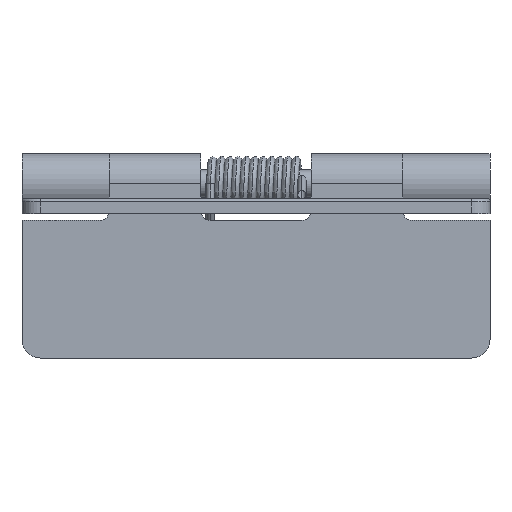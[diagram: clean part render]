
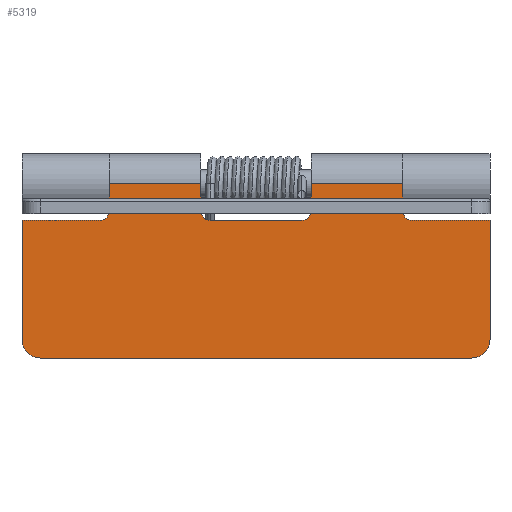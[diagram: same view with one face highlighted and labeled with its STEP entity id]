
A CAD part, left-side view. The second image highlights one B-rep face of the part: STEP entity #5319.
In plain terms, the highlighted planar face has unit normal (-1, 0, 0) as drawn and (0, 0, -1) by its records, which use the part's own axes.
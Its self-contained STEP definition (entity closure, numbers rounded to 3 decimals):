
#1 = VERTEX_POINT ( 'NONE', #512 ) ;
#15 = VERTEX_POINT ( 'NONE', #611 ) ;
#22 = EDGE_CURVE ( 'NONE', #60, #15, #702, .T. ) ;
#38 = ORIENTED_EDGE ( 'NONE', *, *, #4586, .T. ) ;
#41 = ORIENTED_EDGE ( 'NONE', *, *, #22, .T. ) ;
#60 = VERTEX_POINT ( 'NONE', #2570 ) ;
#70 = EDGE_CURVE ( 'NONE', #60, #108, #2723, .T. ) ;
#74 = ORIENTED_EDGE ( 'NONE', *, *, #5553, .T. ) ;
#86 = ORIENTED_EDGE ( 'NONE', *, *, #70, .F. ) ;
#108 = VERTEX_POINT ( 'NONE', #4651 ) ;
#109 = VERTEX_POINT ( 'NONE', #4652 ) ;
#119 = EDGE_CURVE ( 'NONE', #3926, #108, #4697, .T. ) ;
#120 = EDGE_CURVE ( 'NONE', #192, #183, #4707, .T. ) ;
#144 = ORIENTED_EDGE ( 'NONE', *, *, #293, .T. ) ;
#153 = EDGE_CURVE ( 'NONE', #838, #109, #1085, .T. ) ;
#172 = EDGE_CURVE ( 'NONE', #3656, #109, #2675, .T. ) ;
#183 = VERTEX_POINT ( 'NONE', #2817 ) ;
#186 = VERTEX_POINT ( 'NONE', #2854 ) ;
#192 = VERTEX_POINT ( 'NONE', #2919 ) ;
#234 = VERTEX_POINT ( 'NONE', #637 ) ;
#282 = ORIENTED_EDGE ( 'NONE', *, *, #153, .F. ) ;
#293 = EDGE_CURVE ( 'NONE', #838, #234, #2635, .T. ) ;
#443 = EDGE_CURVE ( 'NONE', #192, #2730, #513, .T. ) ;
#465 = ORIENTED_EDGE ( 'NONE', *, *, #443, .T. ) ;
#512 = CARTESIAN_POINT ( 'NONE',  ( -3., 6., -3.25 ) ) ;
#513 = CIRCLE ( 'NONE', #514, 1. ) ;
#514 = AXIS2_PLACEMENT_3D ( 'NONE', #515, #516, #517 ) ;
#515 = CARTESIAN_POINT ( 'NONE',  ( -3., -5., -3.25 ) ) ;
#516 = DIRECTION ( 'NONE',  ( 0., 0., 1. ) ) ;
#517 = DIRECTION ( 'NONE',  ( 1., 0., 0. ) ) ;
#611 = CARTESIAN_POINT ( 'NONE',  ( -17., -25.5, -3.25 ) ) ;
#637 = CARTESIAN_POINT ( 'NONE',  ( 0., 6., -3.25 ) ) ;
#697 = CIRCLE ( 'NONE', #698, 1. ) ;
#698 = AXIS2_PLACEMENT_3D ( 'NONE', #699, #700, #701 ) ;
#699 = CARTESIAN_POINT ( 'NONE',  ( -3., 5., -3.25 ) ) ;
#700 = DIRECTION ( 'NONE',  ( 0., 0., 1. ) ) ;
#701 = DIRECTION ( 'NONE',  ( 1., 0., 0. ) ) ;
#702 = LINE ( 'NONE', #704, #705 ) ;
#704 = CARTESIAN_POINT ( 'NONE',  ( 0., -25.5, -3.25 ) ) ;
#705 = VECTOR ( 'NONE', #706, 1000. ) ;
#706 = DIRECTION ( 'NONE',  ( -1., 0., 0. ) ) ;
#722 = CARTESIAN_POINT ( 'NONE',  ( -4., 25.5, -3.25 ) ) ;
#838 = VERTEX_POINT ( 'NONE', #1089 ) ;
#950 = LINE ( 'NONE', #951, #952 ) ;
#951 = CARTESIAN_POINT ( 'NONE',  ( 0., 25.5, -3.25 ) ) ;
#952 = VECTOR ( 'NONE', #953, 1000. ) ;
#953 = DIRECTION ( 'NONE',  ( -1., 0., 0. ) ) ;
#1085 = LINE ( 'NONE', #1086, #1087 ) ;
#1086 = CARTESIAN_POINT ( 'NONE',  ( 0., 16., -3.25 ) ) ;
#1087 = VECTOR ( 'NONE', #1088, 1000. ) ;
#1088 = DIRECTION ( 'NONE',  ( -1., 0., 0. ) ) ;
#1089 = CARTESIAN_POINT ( 'NONE',  ( 0., 16., -3.25 ) ) ;
#1435 = ORIENTED_EDGE ( 'NONE', *, *, #5623, .T. ) ;
#1913 = EDGE_CURVE ( 'NONE', #5613, #2730, #4562, .T. ) ;
#2250 = ORIENTED_EDGE ( 'NONE', *, *, #1913, .F. ) ;
#2483 = FACE_OUTER_BOUND ( 'NONE', #5095, .T. ) ;
#2484 = PLANE ( 'NONE',  #2485 ) ;
#2485 = AXIS2_PLACEMENT_3D ( 'NONE', #2486, #2487, #2488 ) ;
#2486 = CARTESIAN_POINT ( 'NONE',  ( 0., 25.5, -3.25 ) ) ;
#2487 = DIRECTION ( 'NONE',  ( 0., 0., 1. ) ) ;
#2488 = DIRECTION ( 'NONE',  ( 1., 0., 0. ) ) ;
#2570 = CARTESIAN_POINT ( 'NONE',  ( -4., -25.5, -3.25 ) ) ;
#2635 = LINE ( 'NONE', #2636, #2637 ) ;
#2636 = CARTESIAN_POINT ( 'NONE',  ( 0., 25.5, -3.25 ) ) ;
#2637 = VECTOR ( 'NONE', #2638, 1000. ) ;
#2638 = DIRECTION ( 'NONE',  ( 0., -1., 0. ) ) ;
#2646 = CARTESIAN_POINT ( 'NONE',  ( -19., -23.5, -3.25 ) ) ;
#2675 = CIRCLE ( 'NONE', #2677, 1. ) ;
#2677 = AXIS2_PLACEMENT_3D ( 'NONE', #2678, #2679, #2680 ) ;
#2678 = CARTESIAN_POINT ( 'NONE',  ( -3., 17., -3.25 ) ) ;
#2679 = DIRECTION ( 'NONE',  ( 0., 0., 1. ) ) ;
#2680 = DIRECTION ( 'NONE',  ( 1., 0., 0. ) ) ;
#2691 = LINE ( 'NONE', #2692, #2694 ) ;
#2692 = CARTESIAN_POINT ( 'NONE',  ( 0., 6., -3.25 ) ) ;
#2694 = VECTOR ( 'NONE', #2695, 1000. ) ;
#2695 = DIRECTION ( 'NONE',  ( -1., 0., 0. ) ) ;
#2723 = LINE ( 'NONE', #2724, #2725 ) ;
#2724 = CARTESIAN_POINT ( 'NONE',  ( -4., -25.501, -3.25 ) ) ;
#2725 = VECTOR ( 'NONE', #2726, 1000. ) ;
#2726 = DIRECTION ( 'NONE',  ( 0., 1., 0. ) ) ;
#2730 = VERTEX_POINT ( 'NONE', #4871 ) ;
#2757 = CARTESIAN_POINT ( 'NONE',  ( -17., 25.5, -3.25 ) ) ;
#2799 = CIRCLE ( 'NONE', #2800, 2. ) ;
#2800 = AXIS2_PLACEMENT_3D ( 'NONE', #2801, #2802, #2803 ) ;
#2801 = CARTESIAN_POINT ( 'NONE',  ( -17., -23.5, -3.25 ) ) ;
#2802 = DIRECTION ( 'NONE',  ( 0., 0., -1. ) ) ;
#2803 = DIRECTION ( 'NONE',  ( 1., 0., 0. ) ) ;
#2817 = CARTESIAN_POINT ( 'NONE',  ( -4., 5., -3.25 ) ) ;
#2824 = CARTESIAN_POINT ( 'NONE',  ( -4., 17., -3.25 ) ) ;
#2854 = CARTESIAN_POINT ( 'NONE',  ( 0., -16., -3.25 ) ) ;
#2904 = CIRCLE ( 'NONE', #2905, 2. ) ;
#2905 = AXIS2_PLACEMENT_3D ( 'NONE', #2906, #2907, #2908 ) ;
#2906 = CARTESIAN_POINT ( 'NONE',  ( -17., 23.5, -3.25 ) ) ;
#2907 = DIRECTION ( 'NONE',  ( 0., 0., -1. ) ) ;
#2908 = DIRECTION ( 'NONE',  ( 1., 0., 0. ) ) ;
#2919 = CARTESIAN_POINT ( 'NONE',  ( -4., -5., -3.25 ) ) ;
#2981 = LINE ( 'NONE', #2982, #2983 ) ;
#2982 = CARTESIAN_POINT ( 'NONE',  ( -4., 25.501, -3.25 ) ) ;
#2983 = VECTOR ( 'NONE', #2984, 1000. ) ;
#2984 = DIRECTION ( 'NONE',  ( 0., -1., 0. ) ) ;
#3021 = ORIENTED_EDGE ( 'NONE', *, *, #120, .F. ) ;
#3050 = CARTESIAN_POINT ( 'NONE',  ( -3., -16., -3.25 ) ) ;
#3458 = ORIENTED_EDGE ( 'NONE', *, *, #119, .T. ) ;
#3656 = VERTEX_POINT ( 'NONE', #2824 ) ;
#3860 = EDGE_CURVE ( 'NONE', #4671, #3656, #2981, .T. ) ;
#3926 = VERTEX_POINT ( 'NONE', #3050 ) ;
#4128 = EDGE_CURVE ( 'NONE', #186, #3926, #4597, .T. ) ;
#4194 = ORIENTED_EDGE ( 'NONE', *, *, #3860, .T. ) ;
#4468 = ORIENTED_EDGE ( 'NONE', *, *, #4128, .T. ) ;
#4562 = LINE ( 'NONE', #4563, #4564 ) ;
#4563 = CARTESIAN_POINT ( 'NONE',  ( 0., -6., -3.25 ) ) ;
#4564 = VECTOR ( 'NONE', #4565, 1000. ) ;
#4565 = DIRECTION ( 'NONE',  ( -1., 0., 0. ) ) ;
#4586 = EDGE_CURVE ( 'NONE', #1, #183, #697, .T. ) ;
#4597 = LINE ( 'NONE', #4598, #4599 ) ;
#4598 = CARTESIAN_POINT ( 'NONE',  ( 0., -16., -3.25 ) ) ;
#4599 = VECTOR ( 'NONE', #4600, 1000. ) ;
#4600 = DIRECTION ( 'NONE',  ( -1., 0., 0. ) ) ;
#4651 = CARTESIAN_POINT ( 'NONE',  ( -4., -17., -3.25 ) ) ;
#4652 = CARTESIAN_POINT ( 'NONE',  ( -3., 16., -3.25 ) ) ;
#4671 = VERTEX_POINT ( 'NONE', #722 ) ;
#4697 = CIRCLE ( 'NONE', #4698, 1. ) ;
#4698 = AXIS2_PLACEMENT_3D ( 'NONE', #4699, #4700, #4701 ) ;
#4699 = CARTESIAN_POINT ( 'NONE',  ( -3., -17., -3.25 ) ) ;
#4700 = DIRECTION ( 'NONE',  ( 0., 0., 1. ) ) ;
#4701 = DIRECTION ( 'NONE',  ( 1., 0., 0. ) ) ;
#4707 = LINE ( 'NONE', #4708, #4709 ) ;
#4708 = CARTESIAN_POINT ( 'NONE',  ( -4., -6., -3.25 ) ) ;
#4709 = VECTOR ( 'NONE', #4710, 1000. ) ;
#4710 = DIRECTION ( 'NONE',  ( 0., 1., 0. ) ) ;
#4735 = CARTESIAN_POINT ( 'NONE',  ( -19., 23.5, -3.25 ) ) ;
#4794 = LINE ( 'NONE', #4795, #4796 ) ;
#4795 = CARTESIAN_POINT ( 'NONE',  ( -19., 25.5, -3.25 ) ) ;
#4796 = VECTOR ( 'NONE', #4797, 1000. ) ;
#4797 = DIRECTION ( 'NONE',  ( 0., -1., 0. ) ) ;
#4820 = CARTESIAN_POINT ( 'NONE',  ( 0., -6., -3.25 ) ) ;
#4871 = CARTESIAN_POINT ( 'NONE',  ( -3., -6., -3.25 ) ) ;
#4875 = EDGE_CURVE ( 'NONE', #4671, #5560, #950, .T. ) ;
#4913 = LINE ( 'NONE', #4914, #4915 ) ;
#4914 = CARTESIAN_POINT ( 'NONE',  ( 0., 25.5, -3.25 ) ) ;
#4915 = VECTOR ( 'NONE', #4916, 1000. ) ;
#4916 = DIRECTION ( 'NONE',  ( 0., -1., 0. ) ) ;
#4995 = ORIENTED_EDGE ( 'NONE', *, *, #172, .T. ) ;
#5095 = EDGE_LOOP ( 'NONE', ( #4468, #3458, #86, #41, #5686, #5631, #5581, #5215, #4194, #4995, #282, #144, #74, #38, #3021, #465, #2250, #1435 ) ) ;
#5215 = ORIENTED_EDGE ( 'NONE', *, *, #4875, .F. ) ;
#5319 = ADVANCED_FACE ( 'NONE', ( #2483 ), #2484, .F. ) ;
#5553 = EDGE_CURVE ( 'NONE', #234, #1, #2691, .T. ) ;
#5560 = VERTEX_POINT ( 'NONE', #2757 ) ;
#5568 = EDGE_CURVE ( 'NONE', #5603, #5560, #2904, .T. ) ;
#5581 = ORIENTED_EDGE ( 'NONE', *, *, #5568, .T. ) ;
#5603 = VERTEX_POINT ( 'NONE', #4735 ) ;
#5612 = EDGE_CURVE ( 'NONE', #5603, #5659, #4794, .T. ) ;
#5613 = VERTEX_POINT ( 'NONE', #4820 ) ;
#5623 = EDGE_CURVE ( 'NONE', #5613, #186, #4913, .T. ) ;
#5631 = ORIENTED_EDGE ( 'NONE', *, *, #5612, .F. ) ;
#5659 = VERTEX_POINT ( 'NONE', #2646 ) ;
#5671 = EDGE_CURVE ( 'NONE', #15, #5659, #2799, .T. ) ;
#5686 = ORIENTED_EDGE ( 'NONE', *, *, #5671, .T. ) ;
